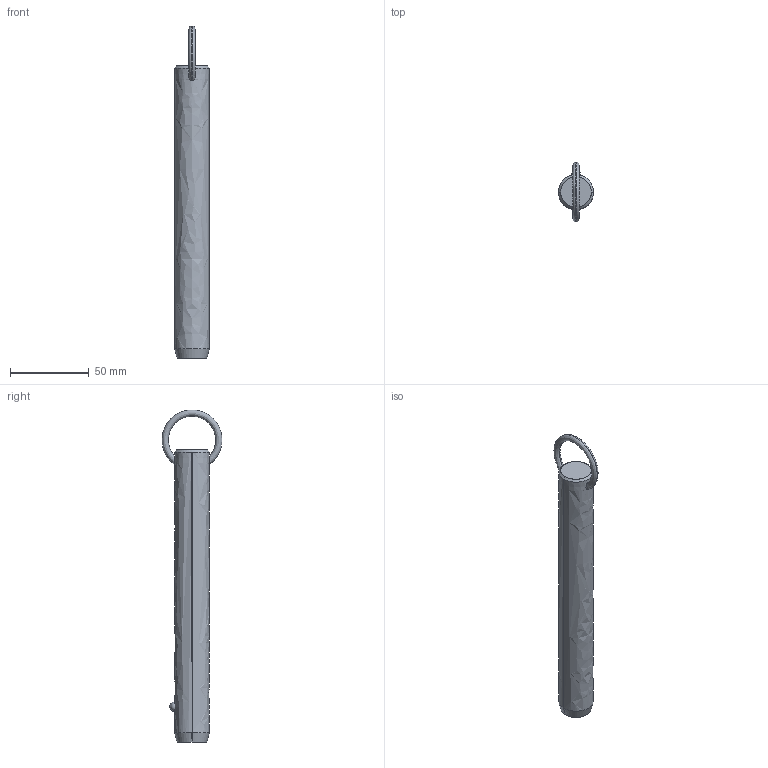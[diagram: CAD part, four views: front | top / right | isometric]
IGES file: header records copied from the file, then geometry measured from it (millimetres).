
Start section: SolidWorks IGES file using analytic representation for surfaces
Global section: file name: C:\Users\liam_\OneDrive\Documents\WORK\Work for WixRoyd\Job Files\J-00019 - Matt Davis CAD Checking\04. CAD Drawings\automotion20190605\P1250.2_v2\P1250.2_v2_20190729_IGES\P1250.087-580.igs; native system: SolidWorks 2017; preprocessor: SolidWorks 2017; author: liam_; date: 190730.001859; units: millimetre
Bounding box: 22.2 x 38.09 x 210.79 mm (x, y, z)
Surface area: 14574.2 mm2 (no closed solid volume)
Topology: 0 solids, 0 shells, 12 faces, 302 edges, 300 vertices
Faces by surface type: revolution 8, bspline 4
